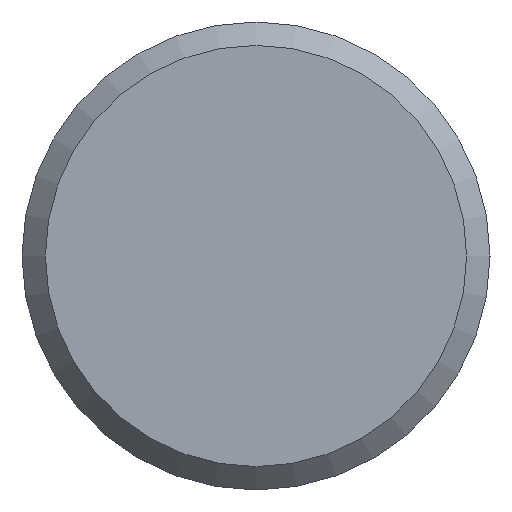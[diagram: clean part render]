
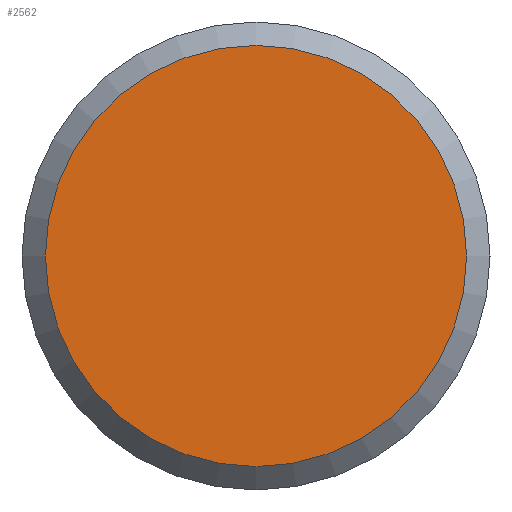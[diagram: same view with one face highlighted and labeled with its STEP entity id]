
A CAD part, left-side view. The second image highlights one B-rep face of the part: STEP entity #2562.
In plain terms, the highlighted planar face has unit normal (-1, 0, 0).
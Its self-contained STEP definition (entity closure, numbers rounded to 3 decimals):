
#940=PLANE('',#2371);
#976=ORIENTED_EDGE('',*,*,#1318,.F.);
#1146=CIRCLE('',#2370,4.5);
#1232=VERTEX_POINT('',#2108);
#1318=EDGE_CURVE('',#1232,#1232,#1146,.T.);
#1406=EDGE_LOOP('',(#976));
#1578=FACE_BOUND('',#1406,.T.);
#1754=DIRECTION('',(1.,0.,0.));
#1755=DIRECTION('',(0.,-4.5,0.));
#1756=DIRECTION('',(-1.,0.,0.));
#1757=DIRECTION('',(0.,1.,0.));
#2108=CARTESIAN_POINT('',(52.916,130.26,0.));
#2109=CARTESIAN_POINT('',(52.916,134.76,0.));
#2110=CARTESIAN_POINT('',(52.916,134.76,0.));
#2370=AXIS2_PLACEMENT_3D('',#2109,#1754,#1755);
#2371=AXIS2_PLACEMENT_3D('',#2110,#1756,#1757);
#2562=ADVANCED_FACE('',(#1578),#940,.T.);
